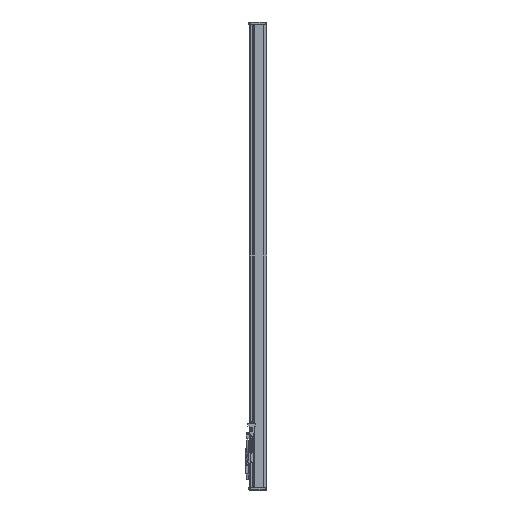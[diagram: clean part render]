
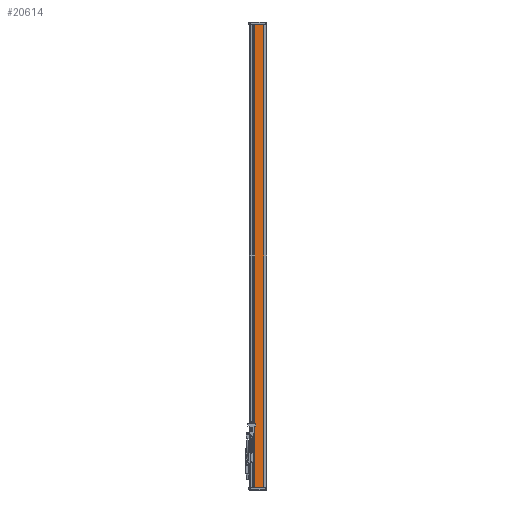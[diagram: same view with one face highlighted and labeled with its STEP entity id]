
A CAD part, left-side view. The second image highlights one B-rep face of the part: STEP entity #20614.
In plain terms, the highlighted planar face has unit normal (-1, 0, 0).
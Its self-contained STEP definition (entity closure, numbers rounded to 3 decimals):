
#144 = PLANE('',#145);
#145 = AXIS2_PLACEMENT_3D('',#146,#147,#148);
#146 = CARTESIAN_POINT('',(-36.5,59.6,1690.));
#147 = DIRECTION('',(0.,0.,1.));
#148 = DIRECTION('',(1.,0.,-0.));
#809 = PLANE('',#810);
#810 = AXIS2_PLACEMENT_3D('',#811,#812,#813);
#811 = CARTESIAN_POINT('',(-36.5,59.6,0.));
#812 = DIRECTION('',(0.,0.,1.));
#813 = DIRECTION('',(1.,0.,-0.));
#13349 = VERTEX_POINT('',#13350);
#13350 = CARTESIAN_POINT('',(-40.5,43.6,1690.));
#13364 = PLANE('',#13365);
#13365 = AXIS2_PLACEMENT_3D('',#13366,#13367,#13368);
#13366 = CARTESIAN_POINT('',(-40.,43.6,1690.));
#13367 = DIRECTION('',(0.,1.,0.));
#13368 = DIRECTION('',(0.,-0.,1.));
#13376 = EDGE_CURVE('',#13349,#13377,#13379,.T.);
#13377 = VERTEX_POINT('',#13378);
#13378 = CARTESIAN_POINT('',(-40.5,11.,1690.));
#13379 = SURFACE_CURVE('',#13380,(#13384,#13391),.PCURVE_S1.);
#13380 = LINE('',#13381,#13382);
#13381 = CARTESIAN_POINT('',(-40.5,19.,1690.));
#13382 = VECTOR('',#13383,1.);
#13383 = DIRECTION('',(0.,-1.,0.));
#13384 = PCURVE('',#144,#13385);
#13385 = DEFINITIONAL_REPRESENTATION('',(#13386),#13390);
#13386 = LINE('',#13387,#13388);
#13387 = CARTESIAN_POINT('',(-4.,-40.6));
#13388 = VECTOR('',#13389,1.);
#13389 = DIRECTION('',(0.,-1.));
#13390 = ( GEOMETRIC_REPRESENTATION_CONTEXT(2) 
PARAMETRIC_REPRESENTATION_CONTEXT() REPRESENTATION_CONTEXT('2D SPACE',''
  ) );
#13391 = PCURVE('',#13392,#13397);
#13392 = PLANE('',#13393);
#13393 = AXIS2_PLACEMENT_3D('',#13394,#13395,#13396);
#13394 = CARTESIAN_POINT('',(-40.5,19.,1690.));
#13395 = DIRECTION('',(1.,0.,-0.));
#13396 = DIRECTION('',(-0.,0.,-1.));
#13397 = DEFINITIONAL_REPRESENTATION('',(#13398),#13402);
#13398 = LINE('',#13399,#13400);
#13399 = CARTESIAN_POINT('',(0.,0.));
#13400 = VECTOR('',#13401,1.);
#13401 = DIRECTION('',(-0.,-1.));
#13402 = ( GEOMETRIC_REPRESENTATION_CONTEXT(2) 
PARAMETRIC_REPRESENTATION_CONTEXT() REPRESENTATION_CONTEXT('2D SPACE',''
  ) );
#13420 = PLANE('',#13421);
#13421 = AXIS2_PLACEMENT_3D('',#13422,#13423,#13424);
#13422 = CARTESIAN_POINT('',(-41.,10.5,1690.));
#13423 = DIRECTION('',(0.707,-0.707,0.));
#13424 = DIRECTION('',(0.707,0.707,0.));
#14766 = VERTEX_POINT('',#14767);
#14767 = CARTESIAN_POINT('',(-40.5,11.,0.));
#14788 = EDGE_CURVE('',#14789,#14766,#14791,.T.);
#14789 = VERTEX_POINT('',#14790);
#14790 = CARTESIAN_POINT('',(-40.5,43.6,0.));
#14791 = SURFACE_CURVE('',#14792,(#14796,#14803),.PCURVE_S1.);
#14792 = LINE('',#14793,#14794);
#14793 = CARTESIAN_POINT('',(-40.5,19.,0.));
#14794 = VECTOR('',#14795,1.);
#14795 = DIRECTION('',(0.,-1.,0.));
#14796 = PCURVE('',#809,#14797);
#14797 = DEFINITIONAL_REPRESENTATION('',(#14798),#14802);
#14798 = LINE('',#14799,#14800);
#14799 = CARTESIAN_POINT('',(-4.,-40.6));
#14800 = VECTOR('',#14801,1.);
#14801 = DIRECTION('',(0.,-1.));
#14802 = ( GEOMETRIC_REPRESENTATION_CONTEXT(2) 
PARAMETRIC_REPRESENTATION_CONTEXT() REPRESENTATION_CONTEXT('2D SPACE',''
  ) );
#14803 = PCURVE('',#13392,#14804);
#14804 = DEFINITIONAL_REPRESENTATION('',(#14805),#14809);
#14805 = LINE('',#14806,#14807);
#14806 = CARTESIAN_POINT('',(1690.,0.));
#14807 = VECTOR('',#14808,1.);
#14808 = DIRECTION('',(-0.,-1.));
#14809 = ( GEOMETRIC_REPRESENTATION_CONTEXT(2) 
PARAMETRIC_REPRESENTATION_CONTEXT() REPRESENTATION_CONTEXT('2D SPACE',''
  ) );
#17797 = EDGE_CURVE('',#13377,#14766,#17798,.T.);
#17798 = SURFACE_CURVE('',#17799,(#17803,#17810),.PCURVE_S1.);
#17799 = LINE('',#17800,#17801);
#17800 = CARTESIAN_POINT('',(-40.5,11.,1690.));
#17801 = VECTOR('',#17802,1.);
#17802 = DIRECTION('',(-0.,-0.,-1.));
#17803 = PCURVE('',#13420,#17804);
#17804 = DEFINITIONAL_REPRESENTATION('',(#17805),#17809);
#17805 = LINE('',#17806,#17807);
#17806 = CARTESIAN_POINT('',(0.707,0.));
#17807 = VECTOR('',#17808,1.);
#17808 = DIRECTION('',(0.,-1.));
#17809 = ( GEOMETRIC_REPRESENTATION_CONTEXT(2) 
PARAMETRIC_REPRESENTATION_CONTEXT() REPRESENTATION_CONTEXT('2D SPACE',''
  ) );
#17810 = PCURVE('',#13392,#17811);
#17811 = DEFINITIONAL_REPRESENTATION('',(#17812),#17816);
#17812 = LINE('',#17813,#17814);
#17813 = CARTESIAN_POINT('',(-0.,-8.));
#17814 = VECTOR('',#17815,1.);
#17815 = DIRECTION('',(1.,-0.));
#17816 = ( GEOMETRIC_REPRESENTATION_CONTEXT(2) 
PARAMETRIC_REPRESENTATION_CONTEXT() REPRESENTATION_CONTEXT('2D SPACE',''
  ) );
#20614 = ADVANCED_FACE('',(#20615),#13392,.F.);
#20615 = FACE_BOUND('',#20616,.T.);
#20616 = EDGE_LOOP('',(#20617,#20618,#20619,#20620));
#20617 = ORIENTED_EDGE('',*,*,#14788,.T.);
#20618 = ORIENTED_EDGE('',*,*,#17797,.F.);
#20619 = ORIENTED_EDGE('',*,*,#13376,.F.);
#20620 = ORIENTED_EDGE('',*,*,#20621,.F.);
#20621 = EDGE_CURVE('',#14789,#13349,#20622,.T.);
#20622 = SURFACE_CURVE('',#20623,(#20627,#20634),.PCURVE_S1.);
#20623 = LINE('',#20624,#20625);
#20624 = CARTESIAN_POINT('',(-40.5,43.6,1690.));
#20625 = VECTOR('',#20626,1.);
#20626 = DIRECTION('',(0.,0.,1.));
#20627 = PCURVE('',#13392,#20628);
#20628 = DEFINITIONAL_REPRESENTATION('',(#20629),#20633);
#20629 = LINE('',#20630,#20631);
#20630 = CARTESIAN_POINT('',(0.,24.6));
#20631 = VECTOR('',#20632,1.);
#20632 = DIRECTION('',(-1.,0.));
#20633 = ( GEOMETRIC_REPRESENTATION_CONTEXT(2) 
PARAMETRIC_REPRESENTATION_CONTEXT() REPRESENTATION_CONTEXT('2D SPACE',''
  ) );
#20634 = PCURVE('',#13364,#20635);
#20635 = DEFINITIONAL_REPRESENTATION('',(#20636),#20640);
#20636 = LINE('',#20637,#20638);
#20637 = CARTESIAN_POINT('',(0.,-0.5));
#20638 = VECTOR('',#20639,1.);
#20639 = DIRECTION('',(1.,0.));
#20640 = ( GEOMETRIC_REPRESENTATION_CONTEXT(2) 
PARAMETRIC_REPRESENTATION_CONTEXT() REPRESENTATION_CONTEXT('2D SPACE',''
  ) );
